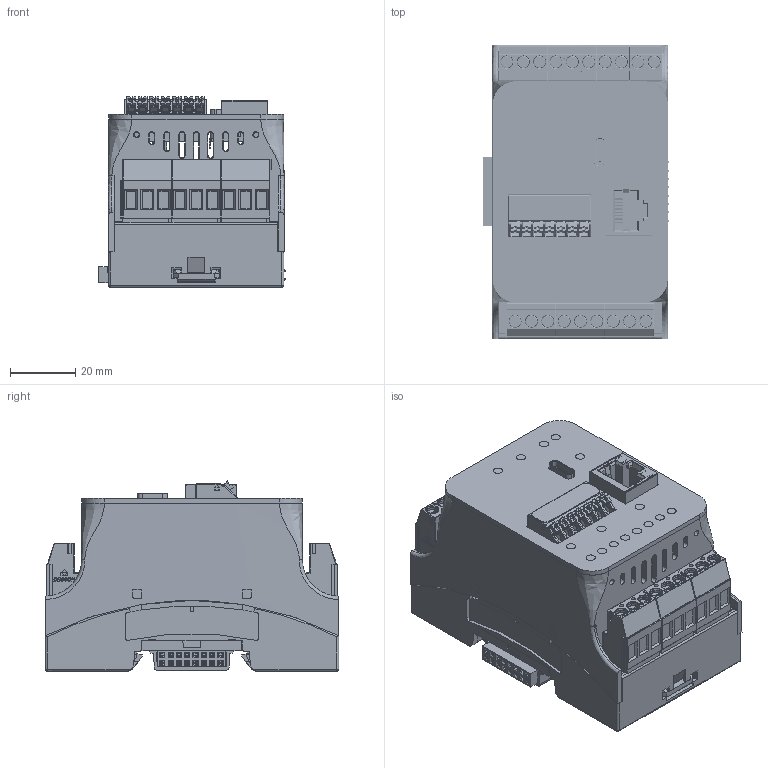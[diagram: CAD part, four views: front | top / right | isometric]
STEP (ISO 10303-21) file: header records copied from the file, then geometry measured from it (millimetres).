
FILE_DESCRIPTION(/* description */ (''),/* implementation_level */ '2;1');
FILE_NAME(/* name */ 'D:\WorkIMT\Project IMT\МВВ\v1\3D на сайт\BASE (2RSTX).stp',/* time_stamp */ '2026-06-09T08:47:07+03:00',/* author */ ('admin'),/* organization */ (''),/* preprocessor_version */ 'ST-DEVELOPER v17.2',/* originating_system */ 'Autodesk Inventor 2019',/* authorisation */ '');
FILE_SCHEMA (('AUTOMOTIVE_DESIGN { 1 0 10303 214 3 1 1 }'));
Products named in the file (1): MT.GARA-DIN.BASE.220V.2RSTX.XX.XX 2
Bounding box: 57.13 x 89.74 x 58.21 mm (x, y, z)
Volume: 73508.4 mm3; surface area: 78458.9 mm2
Topology: 5 solids, 75 shells, 9313 faces, 25731 edges, 16672 vertices
Faces by surface type: plane 7540, cylinder 1047, bspline 299, cone 224, torus 142, sphere 61
Full cylindrical faces by diameter (mm): 0.2 x197, 0.3 x1, 0.4 x1, 1.2 x18, 1.3 x7, 1.8 x3, 2.2 x8, 4.05 x19
Entity records: 321472 total; most frequent: CARTESIAN_POINT 74997, ORIENTED_EDGE 51338, DIRECTION 45981, EDGE_CURVE 25669, LINE 21041, VECTOR 21041, VERTEX_POINT 16672, AXIS2_PLACEMENT_3D 12470
